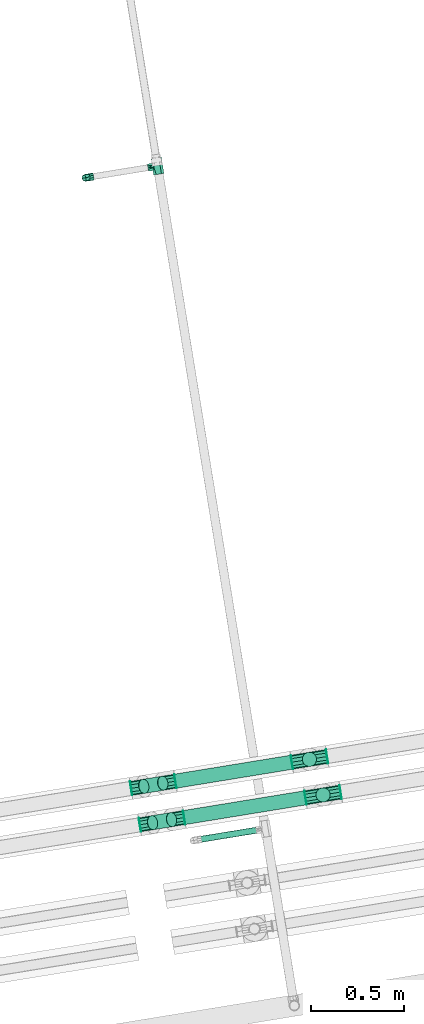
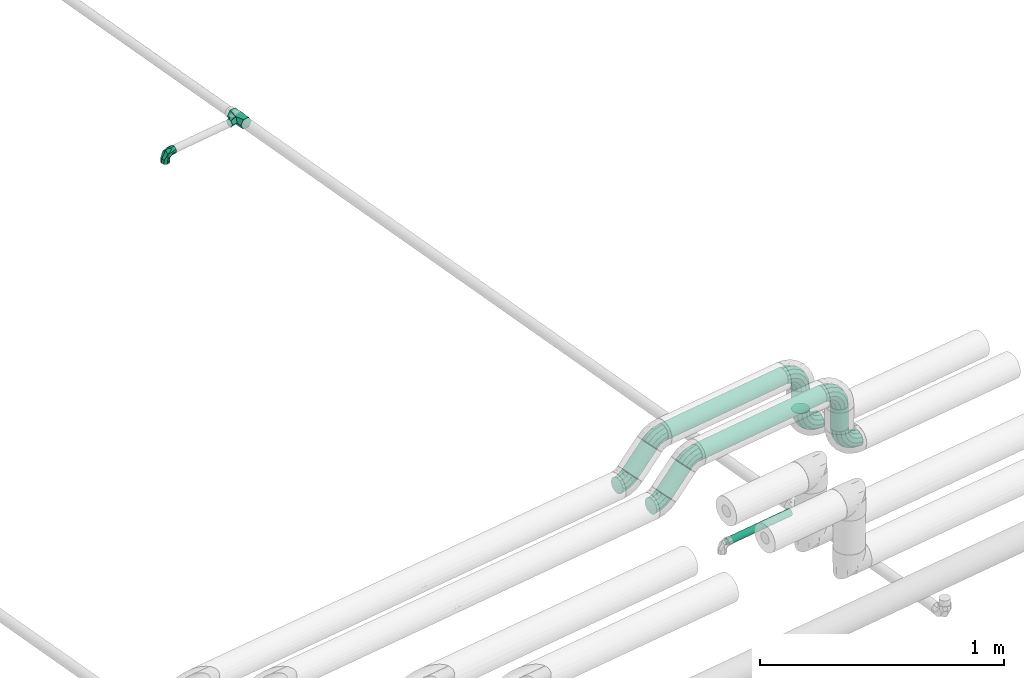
# One storey, part 28 of 56: 26 flow fittings, 7 flow segments.
"""IFC2X3 building model written with IfcOpenShell, lengths in millimetres."""

from ifc_helpers import new_model, entity, si_unit, converted_unit, derived_unit, direction, frame, frame_2d, origin, origin_with_axes, origin_2d_with_axis, place, context, subcontext, project, spatial, circle, extrude, faceted_brep, source, transform, mapped, material, type_object, element, save


model = new_model("IFC2X3")

# Units and contexts
model_context = context("Model", 3, precision=0.01, world=origin(), true_north=direction((6.12323399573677e-17, 1.0)))
plan_context = context("Plan", 3, precision=1e-05, world=origin_with_axes())
body_context = subcontext(model_context, "Body", "Model", "MODEL_VIEW")
ifc_project = project(units=[converted_unit("PLANEANGLEUNIT", "DEGREE", entity("IfcPositiveLengthMeasure", 0.0174532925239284), si_unit("PLANEANGLEUNIT", "RADIAN"), dimensions=[0, 0, 0, 0, 0, 0, 0]), si_unit("AREAUNIT", "SQUARE_METRE"), si_unit("LENGTHUNIT", "METRE", prefix="MILLI"), si_unit("MASSUNIT", "GRAM", prefix="KILO"), si_unit("POWERUNIT", "WATT"), si_unit("PRESSUREUNIT", "PASCAL", prefix="KILO"), si_unit("FORCEUNIT", "NEWTON", prefix="KILO"), si_unit("ELECTRICVOLTAGEUNIT", "VOLT"), si_unit("ELECTRICCURRENTUNIT", "AMPERE"), si_unit("THERMODYNAMICTEMPERATUREUNIT", "DEGREE_CELSIUS"), si_unit("TIMEUNIT", "SECOND"), si_unit("VOLUMEUNIT", "CUBIC_METRE"), derived_unit("LINEARVELOCITYUNIT", [(si_unit("LENGTHUNIT", "METRE"), 1), (si_unit("TIMEUNIT", "SECOND"), -1)]), derived_unit("VOLUMETRICFLOWRATEUNIT", [(si_unit("VOLUMEUNIT", "CUBIC_METRE"), 1), (si_unit("TIMEUNIT", "SECOND"), -1)]), derived_unit("THERMALTRANSMITTANCEUNIT", [(si_unit("POWERUNIT", "WATT"), 1), (si_unit("THERMODYNAMICTEMPERATUREUNIT", "KELVIN"), -1), (si_unit("AREAUNIT", "SQUARE_METRE"), -1)]), derived_unit("SOUNDPRESSUREUNIT", [(si_unit("PRESSUREUNIT", "PASCAL"), 1)])], contexts=[model_context, plan_context])

# Site, building, storey
site_placement = place(None, frame((-3.09682673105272e-06, 1.93776733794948e-05, 0.0), z_axis=(0.0, 0.0, 1.0), x_axis=(-0.160806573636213, 0.986985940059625, 0.0)))
site = spatial("IfcSite", under=ifc_project, at=site_placement, Name="Default", CompositionType="ELEMENT")
building_placement = place(site_placement, frame((0.0, 0.0, 0.0), z_axis=(0.0, 0.0, 1.0), x_axis=(1.0, -2.77555756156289e-17, 0.0)))
building = spatial("IfcBuilding", under=site, at=building_placement, Name="Bygning (endres i Project Information)", CompositionType="ELEMENT")
storey_placement = place(building_placement, frame((0.0, 0.0, 51360.0000000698), z_axis=(0.0, 0.0, 1.0), x_axis=(1.0, -2.77555756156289e-17, 0.0)))
storey = spatial("IfcBuildingStorey", under=building, at=storey_placement, Name="H01-Nivå D+0,36", CompositionType="ELEMENT", Elevation=51360.0000000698)

# Flow fittings
ifc_material_1 = material(Name="3320.001")
pipe_fitting_type_1 = type_object("IfcPipeFittingType", Name="RS_53_PIF_UN_Tee-Reduced-EN10241_MC_gen:RS_53_PIF_UN_Tee-Reduced-EN10241_MC_gen", PredefinedType="NOTDEFINED", material=ifc_material_1)
shared_shape_1 = source(origin(), body_context, "Body", "Brep", [
    faceted_brep([(44.0, -28.0, 0.0), (44.0, -21.0, -12.124355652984), (44.0, -14.0, -24.2487113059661), (44.0, 0.0, -24.2487113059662), (44.0, 14.0, -24.2487113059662), (44.0, 21.0, -12.1243556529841), (44.0, 28.0, 0.0), (44.0, 21.0, 12.1243556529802), (44.0, 14.0, 24.2487113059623), (44.0, 0.0, 24.2487113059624), (44.0, -14.0, 24.2487113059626), (44.0, -21.0, 12.1243556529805), (-44.0, -28.0, 0.0), (-44.0, -21.0, 12.1243556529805), (-44.0, -14.0, 24.2487113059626), (-44.0, 0.0, 24.2487113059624), (-44.0, 14.0, 24.2487113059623), (-44.0, 21.0, 12.1243556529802), (-44.0, 28.0, 0.0), (-44.0, 20.982647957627, -12.1544102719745), (-44.0, 14.0, -24.2487113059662), (-44.0, 0.0, -24.2487113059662), (-44.0, -14.0, -24.2487113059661), (-44.0, -21.0, -12.124355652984), (3.55028427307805, -20.1628871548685, 19.4282778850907), (11.6501421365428, -24.0814435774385, 9.71413894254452), (-19.7499999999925, -28.0, 0.0), (-8.09985786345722, -24.0814435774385, 9.71413894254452), (19.7500000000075, -28.0, 0.0), (-11.6531711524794, -24.0819773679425, -9.71358493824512), (-3.55634230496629, -20.1639547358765, -19.4271698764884), (8.0968288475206, -24.0819773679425, -9.71358493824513), (9.87500000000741, -52.0, -17.1040017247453), (14.8125000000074, -52.0, -8.55200086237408), (19.7500000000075, -52.0, 0.0), (14.8125000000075, -52.0, 8.55200086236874), (9.87500000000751, -52.0, 17.1040017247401), (0.0, -52.0, 17.1040017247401), (-9.87499999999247, -52.0, 17.1040017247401), (-14.8124999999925, -52.0, 8.55200086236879), (-19.7499999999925, -52.0, 0.0), (-14.8124999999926, -52.0, -8.55200086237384), (-9.87499999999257, -52.0, -17.1040017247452), (0.0, -52.0, -17.1040017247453)], [[[0, 1, 2, 3, 4, 5, 6, 7, 8, 9, 10, 11]], [[12, 13, 14, 15, 16, 17, 18, 19, 20, 21, 22, 23]], [[7, 6, 18, 17, 16, 8]], [[8, 16, 15, 9]], [[15, 14, 24]], [[11, 24, 25]], [[24, 9, 15]], [[12, 26, 13]], [[13, 26, 27, 24]], [[0, 11, 25]], [[0, 25, 28]], [[24, 14, 13]], [[24, 11, 10]], [[9, 24, 10]], [[19, 18, 6, 5, 4, 20]], [[23, 29, 12]], [[30, 1, 28, 31]], [[23, 30, 29]], [[12, 29, 26]], [[1, 0, 28]], [[23, 22, 30]], [[21, 20, 4, 3]], [[30, 21, 3]], [[30, 3, 2]], [[30, 2, 1]], [[21, 30, 22]], [[32, 33, 34, 35, 36, 37, 38, 39, 40, 41, 42, 43]], [[26, 41, 40]], [[29, 42, 41]], [[31, 43, 30]], [[32, 31, 33]], [[30, 42, 29]], [[28, 33, 31]], [[31, 32, 43]], [[34, 33, 28]], [[43, 42, 30]], [[26, 29, 41]], [[28, 35, 34]], [[25, 36, 35]], [[27, 37, 24]], [[38, 27, 39]], [[24, 36, 25]], [[26, 39, 27]], [[27, 38, 37]], [[40, 39, 26]], [[37, 36, 24]], [[28, 25, 35]]]),
])
flow_fitting_1_placement = place(storey_placement, frame((1015158.93557438, -395336.905112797, 3200.0), z_axis=(0.0, 0.0, 1.0), x_axis=(-1.0, 2.77555756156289e-17, 0.0)))
element("IfcFlowFitting", 1, at=flow_fitting_1_placement, inside=storey, type_object=pipe_fitting_type_1, material=ifc_material_1, Name="RS_53_PIF_UN_Tee-Reduced-EN10241_MC_gen:RS_53_PIF_UN_Tee-Reduced-EN10241_MC_gen", ObjectType="RS_53_PIF_UN_Tee-Reduced-EN10241_MC_gen:RS_53_PIF_UN_Tee-Reduced-EN10241_MC_gen", context=body_context, shape_type="MappedRepresentation", body=[
    mapped(shared_shape_1, transform((0.0, 0.0, 0.0), scale=1.0)),
])
pipe_fitting_type_2 = type_object("IfcPipeFittingType", Name="RS_53_PIF_UN_Elbow-EN10241_NOR:RS_53_PIF_UN_Elbow-EN10241_NOR", PredefinedType="NOTDEFINED", material=ifc_material_1)
shared_shape_2 = source(origin(), body_context, "Body", "Brep", [
    faceted_brep([(-43.0, 5.11167614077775, 19.0770350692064), (-43.0, 17.1040017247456, 9.87499999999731), (-43.0, 19.7500000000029, 0.0), (-43.0, 17.1040017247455, -9.87500000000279), (-43.0, 5.11167614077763, -19.0770350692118), (-43.0, -5.11167614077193, -19.0770350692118), (-43.0, -17.1040017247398, -9.87500000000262), (-43.0, -19.7499999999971, 0.0), (-43.0, -17.1040017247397, 9.87499999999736), (-43.0, -5.11167614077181, 19.0770350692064), (-21.7499999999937, -19.7499999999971, 0.0), (-21.7499999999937, -15.1293510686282, -12.6950870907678), (-21.7499999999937, -3.42946974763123, -19.4499675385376), (-21.7499999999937, 15.1294711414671, -12.694943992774), (-21.7499999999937, 19.7500000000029, 0.0), (-21.7499999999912, 5.85000069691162, -16.072455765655), (-21.7499999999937, 15.1294711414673, 12.6949439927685), (-21.7499999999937, 3.42965371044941, 19.4499351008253), (-21.7499999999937, -15.1293510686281, 12.6950870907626), (-5.41688095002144, -10.3200693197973, 0.0), (0.655979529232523, -2.00253561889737, 16.4678355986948), (-11.0449015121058, 9.84579831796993, 18.897380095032), (-18.5589216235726, 21.7499999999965, 6.75491881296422), (-15.1293490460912, 21.7499999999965, 12.6950895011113), (-20.3357864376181, 20.3357864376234, 0.0), (-19.7499999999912, 21.7499999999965, 0.0), (14.190054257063, 1.0, 0.0), (12.6950125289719, 21.7499999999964, 15.1294136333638), (6.75482439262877, 21.7499999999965, 18.5589559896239), (17.2232575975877, 12.3200689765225, 0.0), (-6.754824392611, 21.7499999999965, 18.558955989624), (19.7500000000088, 21.7499999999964, 0.0), (18.5589216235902, 21.7499999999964, 6.75491881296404), (0.0, 21.7499999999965, 19.7499999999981), (-18.5589216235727, 21.7499999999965, -6.75491881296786), (-10.1618436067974, 10.1618877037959, -19.0082217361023), (1.2569166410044, -0.890945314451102, -16.7093898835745), (0.0, 21.7499999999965, -19.7500000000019), (-6.75482439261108, 21.7499999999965, -18.5589559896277), (-12.6950125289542, 21.7499999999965, -15.1294136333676), (18.5589216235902, 21.7499999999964, -6.75491881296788), (15.1293490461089, 21.7499999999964, -12.6950895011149), (6.75482439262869, 21.7499999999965, -18.5589559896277), (-9.8749999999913, 43.0, 17.1040017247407), (0.0, 43.0, 19.7499999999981), (9.8750000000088, 43.0, 17.1040017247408), (19.0770350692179, 43.0, 5.11167614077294), (19.0770350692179, 43.0, -5.11167614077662), (9.87500000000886, 43.0, -17.1040017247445), (0.0, 43.0, -19.7500000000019), (-9.87499999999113, 43.0, -17.1040017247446), (-19.0770350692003, 43.0, -5.11167614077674), (-19.0770350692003, 43.0, 5.11167614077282)], [[[0, 1, 2, 3, 4, 5, 6, 7, 8, 9]], [[7, 6, 10]], [[6, 11, 10]], [[11, 6, 5]], [[11, 5, 12]], [[13, 4, 3]], [[14, 3, 2]], [[4, 13, 15, 12]], [[13, 3, 14]], [[4, 12, 5]], [[2, 1, 14]], [[1, 16, 14]], [[16, 1, 0]], [[16, 0, 17]], [[18, 9, 8]], [[10, 8, 7]], [[9, 18, 17]], [[18, 8, 10]], [[9, 17, 0]], [[18, 19, 20]], [[20, 21, 17]], [[22, 16, 23]], [[16, 17, 21]], [[24, 14, 22]], [[22, 25, 24]], [[14, 16, 22]], [[20, 26, 27]], [[27, 28, 20]], [[26, 29, 27]], [[23, 21, 30]], [[31, 32, 29]], [[18, 20, 17]], [[26, 20, 19]], [[21, 23, 16]], [[18, 10, 19]], [[33, 21, 20]], [[33, 30, 21]], [[27, 29, 32]], [[33, 20, 28]], [[14, 24, 34]], [[25, 34, 24]], [[12, 35, 36]], [[14, 34, 13]], [[36, 19, 11]], [[37, 35, 38]], [[38, 35, 39]], [[10, 11, 19]], [[34, 39, 13]], [[37, 36, 35]], [[36, 11, 12]], [[39, 35, 13]], [[40, 31, 29]], [[41, 36, 42]], [[36, 37, 42]], [[41, 40, 29]], [[26, 36, 41]], [[29, 26, 41]], [[19, 36, 26]], [[13, 35, 12, 15]], [[43, 44, 45, 46, 47, 48, 49, 50, 51, 52]], [[49, 37, 38]], [[50, 38, 39]], [[49, 38, 50]], [[51, 50, 39]], [[51, 34, 25]], [[34, 51, 39]], [[52, 25, 22]], [[22, 23, 52]], [[30, 43, 23]], [[52, 23, 43]], [[44, 43, 30]], [[33, 44, 30]], [[25, 52, 51]], [[44, 33, 28]], [[45, 28, 27]], [[44, 28, 45]], [[46, 45, 27]], [[46, 32, 31]], [[32, 46, 27]], [[47, 31, 40]], [[40, 41, 47]], [[42, 48, 41]], [[47, 41, 48]], [[49, 48, 42]], [[37, 49, 42]], [[31, 47, 46]]]),
])
flow_fitting_2_placement = place(storey_placement, frame((1015158.93557438, -394946.491159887, 3200.0), z_axis=(1.0, -2.77555756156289e-17, 0.0), x_axis=(0.0, 0.0, 1.0)))
element("IfcFlowFitting", 2, at=flow_fitting_2_placement, inside=storey, type_object=pipe_fitting_type_2, material=ifc_material_1, Name="RS_53_PIF_UN_Elbow-EN10241_NOR:RS_53_PIF_UN_Elbow-EN10241_NOR", ObjectType="RS_53_PIF_UN_Elbow-EN10241_NOR:RS_53_PIF_UN_Elbow-EN10241_NOR", context=body_context, shape_type="MappedRepresentation", body=[
    mapped(shared_shape_2, transform((0.0, 0.0, 0.0), scale=1.0)),
])
ifc_material_2 = material(Name="3700.001 Retur")
pipe_fitting_type_3 = type_object("IfcPipeFittingType", Name="Bend sveist:EN 10253-1 S235 3D ISO", PredefinedType="NOTDEFINED", material=ifc_material_2)
shared_shape_3 = source(origin(), body_context, "Body", "Brep", [
    faceted_brep([(-4.83671721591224, -33.5334682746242, 0.0), (-6.15610770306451, -28.6094359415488, 19.024999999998), (-39.143181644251, -32.9522666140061, 19.024999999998), (-39.143181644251, -38.0500000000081, 0.0), (-9.76074954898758, -15.1567294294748, 32.9522666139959), (-39.143181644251, -19.0250000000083, 32.9522666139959), (-14.6847818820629, 3.22000941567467, 38.0499999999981), (-39.143181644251, 0.0, 38.0499999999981), (-19.6088142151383, 21.5967482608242, 32.9522666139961), (-39.1431816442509, 19.0249999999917, 32.9522666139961), (-23.2134560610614, 35.0494547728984, 19.0249999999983), (-39.1431816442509, 32.9522666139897, 19.0249999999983), (-24.5328465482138, 39.9734871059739, 0.0), (-39.1431816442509, 38.0499999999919, 0.0), (-23.2134560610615, 35.0494547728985, -19.0250000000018), (-39.1431816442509, 32.9522666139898, -19.0250000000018), (-19.6088142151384, 21.5967482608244, -32.9522666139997), (-39.1431816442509, 19.0249999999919, -32.9522666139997), (-14.684781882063, 3.22000941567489, -38.0500000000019), (-39.143181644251, 0.0, -38.0500000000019), (-9.76074954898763, -15.1567294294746, -32.9522666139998), (-39.143181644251, -19.0250000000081, -32.9522666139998), (-6.15610770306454, -28.6094359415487, -19.025000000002), (-39.143181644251, -32.952266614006, -19.025000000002), (27.1318183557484, -20.2916672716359, 0.0), (24.5829516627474, -15.8769006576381, 19.024999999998), (17.6193183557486, -3.81553396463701, 32.9522666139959), (8.10681835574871, 12.660599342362, 38.0499999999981), (-1.4056816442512, 29.136732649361, 32.9522666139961), (-8.36931495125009, 41.1980993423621, 19.0249999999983), (-10.9181816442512, 45.6128659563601, 0.0), (-8.36931495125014, 41.1980993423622, -19.0250000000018), (-1.40568164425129, 29.1367326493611, -32.9522666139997), (8.1068183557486, 12.6605993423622, -38.0500000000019), (17.6193183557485, -3.81553396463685, -32.9522666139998), (24.5829516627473, -15.876900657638, -19.025000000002), (54.5838222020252, 0.772996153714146, 0.0), (50.9791803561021, 4.37763799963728, 19.024999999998), (41.1311156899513, 14.2257026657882, 32.9522666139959), (27.6784091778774, 27.6784091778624, 38.0499999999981), (14.2257026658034, 41.1311156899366, 32.9522666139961), (4.37763799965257, 50.9791803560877, 19.0249999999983), (0.772996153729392, 54.5838222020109, 0.0), (4.3776379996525, 50.9791803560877, -19.0250000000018), (14.2257026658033, 41.1311156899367, -32.9522666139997), (27.6784091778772, 27.6784091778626, -38.0500000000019), (41.1311156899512, 14.2257026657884, -32.9522666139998), (50.979180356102, 4.37763799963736, -19.025000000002)], [[[0, 1, 2, 3]], [[1, 4, 5, 2]], [[4, 6, 7, 5]], [[6, 8, 9, 7]], [[8, 10, 11, 9]], [[10, 12, 13, 11]], [[12, 14, 15, 13]], [[14, 16, 17, 15]], [[16, 18, 19, 17]], [[18, 20, 21, 19]], [[20, 22, 23, 21]], [[22, 0, 3, 23]], [[24, 25, 1, 0]], [[25, 26, 4, 1]], [[26, 27, 6, 4]], [[27, 28, 8, 6]], [[28, 29, 10, 8]], [[29, 30, 12, 10]], [[30, 31, 14, 12]], [[31, 32, 16, 14]], [[32, 33, 18, 16]], [[33, 34, 20, 18]], [[34, 35, 22, 20]], [[35, 24, 0, 22]], [[36, 37, 25, 24]], [[37, 38, 26, 25]], [[38, 39, 27, 26]], [[39, 40, 28, 27]], [[40, 41, 29, 28]], [[41, 42, 30, 29]], [[42, 43, 31, 30]], [[43, 44, 32, 31]], [[44, 45, 33, 32]], [[45, 46, 34, 33]], [[46, 47, 35, 34]], [[47, 36, 24, 35]], [[3, 2, 5, 7, 9, 11, 13, 15, 17, 19, 21, 23]], [[47, 46, 45, 44, 43, 42, 41, 40, 39, 38, 37, 36]]]),
])
for number, where, z_axis, x_axis in (
    (3, (1011688.36764294, -394875.815734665, 3600.00073692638), (-1.0, 2.77555756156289e-17, 0.0), (2.77555756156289e-17, 1.0, 0.0)),
    (4, (1011688.36764294, -394715.815734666, 3440.00073692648), (-1.0, 2.77555756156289e-17, 0.0), (-2.77555756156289e-17, -1.0, 0.0)),
    (5, (1011888.36764294, -394700.815734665, 3440.00073692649), (-1.0, 2.77555756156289e-17, 0.0), (-2.77555756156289e-17, -1.0, 0.0)),
    (6, (1011888.36764294, -394860.814997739, 3600.0), (1.0, 1.96261557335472e-17, -2.51141264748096e-30), (1.38777878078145e-17, -0.707106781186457, 0.707106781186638)),
):
    element("IfcFlowFitting", number, at=place(storey_placement, frame(where, z_axis=z_axis, x_axis=x_axis)), inside=storey, type_object=pipe_fitting_type_3, material=ifc_material_2, Name="Bend sveist:EN 10253-1 S235 3D ISO", ObjectType="Bend sveist:EN 10253-1 S235 3D ISO", context=body_context, shape_type="MappedRepresentation", body=[
        mapped(shared_shape_3, transform((0.0, 0.0, 0.0), scale=1.0)),
    ])
ifc_material_3 = material(Name="<Unnamed>")
pipe_fitting_type_4 = type_object("IfcPipeFittingType", Name="Sveis:Sveis", PredefinedType="NOTDEFINED", material=ifc_material_3)
shared_shape_4 = source(origin(), body_context, "Body", "SweptSolid", [
    extrude(circle(Radius=38.05, at=frame_2d((1.62943588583e-15, -6.14714710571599e-14), x_axis=(1.0, 0.0))), origin(), (0.0, 0.0, 1.0), 2.0),
])
for number, where, z_axis, x_axis in (
    (7, (1011688.36764294, -394914.95891631, 3600.0007369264), (-2.77555756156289e-17, -1.0, 0.0), (0.0, 0.0, 1.0)),
    (8, (1011688.36764294, -394848.137325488, 3572.32232774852), (1.96261557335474e-17, 0.707106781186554, -0.707106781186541), (-1.0, 2.77555756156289e-17, 0.0)),
    (9, (1011688.36764294, -394676.672553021, 3440.00073692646), (2.77555756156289e-17, 1.0, 0.0), (0.0, 0.0, -1.0)),
    (10, (1011688.36764293, -394743.494143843, 3467.67914610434), (-1.96261557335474e-17, -0.707106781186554, 0.707106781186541), (-1.0, 2.77555756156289e-17, 0.0)),
    (11, (1011688.36764294, -395576.315734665, 3600.00073692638), (2.77555756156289e-17, 1.0, 0.0), (0.0, 0.0, 1.0)),
    (12, (1011688.36764294, -395670.815734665, 3505.50073692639), (0.0, 0.0, -1.0), (1.0, -2.77555756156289e-17, 0.0)),
    (13, (1011688.36764294, -395670.815734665, 3394.50000000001), (0.0, 0.0, 1.0), (2.77555756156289e-17, 1.0, 0.0)),
    (14, (1011688.36764294, -395765.315734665, 3300.0), (-2.77555756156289e-17, -1.0, 0.0), (-1.0, 2.77555756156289e-17, 0.0)),
    (15, (1011888.36764294, -394661.672553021, 3440.00073692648), (2.77555756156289e-17, 1.0, 0.0), (0.0, 0.0, -1.0)),
    (16, (1011888.36764293, -394728.494143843, 3467.67914610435), (-1.96261557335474e-17, -0.707106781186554, 0.707106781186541), (-1.0, 2.77555756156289e-17, 0.0)),
    (17, (1011888.36764294, -394833.136588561, 3572.32159082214), (2.25003396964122e-17, 0.707106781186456, -0.707106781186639), (2.77555756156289e-17, 0.707106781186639, 0.707106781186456)),
    (18, (1011888.36764294, -394899.958179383, 3600.0), (-2.77555756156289e-17, -1.0, 0.0), (1.0, -2.77555756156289e-17, 0.0)),
    (19, (1011888.36764294, -395629.315734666, 3505.50000000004), (0.0, 0.0, -1.0), (-2.77555756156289e-17, -1.0, 0.0)),
    (20, (1011888.36764294, -395534.815734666, 3600.0), (2.77555756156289e-17, 1.0, 0.0), (-1.0, 2.77555756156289e-17, 0.0)),
    (21, (1011888.36764294, -395629.315734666, 3394.50000000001), (0.0, 0.0, 1.0), (2.77555756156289e-17, 1.0, 0.0)),
    (22, (1011888.36764294, -395723.815734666, 3300.0), (-2.77555756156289e-17, -1.0, 0.0), (-1.0, 2.77555756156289e-17, 0.0)),
):
    element("IfcFlowFitting", number, at=place(storey_placement, frame(where, z_axis=z_axis, x_axis=x_axis)), inside=storey, type_object=pipe_fitting_type_4, material=ifc_material_3, Name="Sveis:Sveis", ObjectType="Sveis:Sveis", context=body_context, shape_type="MappedRepresentation", body=[
        mapped(shared_shape_4, transform((0.0, 0.0, 0.0), scale=1.0)),
    ])
pipe_fitting_type_5 = type_object("IfcPipeFittingType", Name="Bend sveist:EN 10253-1 S235 3D ISO", PredefinedType="NOTDEFINED", material=ifc_material_2)
shared_shape_5 = source(origin(), body_context, "Body", "Brep", [
    faceted_brep([(-53.5397973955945, -31.5625412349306, 0.0), (-55.1150836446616, -26.714308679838, 19.024999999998), (-94.4999999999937, -32.9522666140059, 19.024999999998), (-94.4999999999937, -38.050000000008, 0.0), (-59.4188457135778, -13.4686910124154, 32.9522666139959), (-94.4999999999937, -19.0250000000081, 32.9522666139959), (-65.2978940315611, 4.62515921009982, 38.0499999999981), (-94.4999999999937, 0.0, 38.0499999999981), (-71.1769423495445, 22.7190094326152, 32.9522666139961), (-94.4999999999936, 19.0249999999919, 32.9522666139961), (-75.4807044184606, 35.9646271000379, 19.0249999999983), (-94.4999999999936, 32.9522666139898, 19.0249999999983), (-77.0559906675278, 40.8128596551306, 0.0), (-94.4999999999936, 38.049999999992, 0.0), (-75.4807044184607, 35.964627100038, -19.0250000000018), (-94.4999999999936, 32.9522666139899, -19.0250000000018), (-71.1769423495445, 22.7190094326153, -32.9522666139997), (-94.4999999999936, 19.0249999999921, -32.9522666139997), (-65.2978940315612, 4.62515921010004, -38.0500000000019), (-94.4999999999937, 0.0, -38.0500000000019), (-59.4188457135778, -13.4686910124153, -32.9522666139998), (-94.4999999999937, -19.0250000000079, -32.9522666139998), (-55.1150836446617, -26.7143086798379, -19.025000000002), (-94.4999999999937, -32.9522666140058, -19.025000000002), (-16.5890648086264, -12.7352026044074, 0.0), (-19.5854373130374, -8.6110496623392, 19.024999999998), (-27.7716792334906, 2.65634571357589, 32.9522666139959), (-38.9542936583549, 18.0478940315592, 38.0499999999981), (-50.1369080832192, 33.4394423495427, 32.9522666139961), (-58.3231500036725, 44.7068377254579, 19.0249999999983), (-61.3195225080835, 48.8309906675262, 0.0), (-58.3231500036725, 44.7068377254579, -19.0250000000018), (-50.1369080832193, 33.4394423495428, -32.9522666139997), (-38.954293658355, 18.0478940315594, -38.0500000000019), (-27.7716792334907, 2.65634571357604, -32.9522666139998), (-19.5854373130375, -8.61104966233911, -19.025000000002), (12.7352026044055, 16.5890648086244, 0.0), (8.61104966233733, 19.5854373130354, 19.024999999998), (-2.65634571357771, 27.7716792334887, 32.9522666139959), (-18.047894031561, 38.954293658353, 38.0499999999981), (-33.4394423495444, 50.1369080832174, 32.9522666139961), (-44.7068377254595, 58.3231500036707, 19.0249999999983), (-48.8309906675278, 61.3195225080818, 0.0), (-44.7068377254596, 58.3231500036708, -19.0250000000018), (-33.4394423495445, 50.1369080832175, -32.9522666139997), (-18.0478940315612, 38.9542936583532, -38.0500000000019), (-2.65634571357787, 27.7716792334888, -32.9522666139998), (8.61104966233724, 19.5854373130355, -19.025000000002), (31.5625412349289, 53.5397973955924, 0.0), (26.7143086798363, 55.1150836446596, 19.024999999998), (13.4686910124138, 59.4188457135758, 32.9522666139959), (-4.62515921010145, 65.2978940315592, 38.0499999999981), (-22.7190094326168, 71.1769423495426, 32.9522666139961), (-35.9646271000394, 75.4807044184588, 19.0249999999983), (-40.8128596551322, 77.0559906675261, 0.0), (-35.9646271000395, 75.4807044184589, -19.0250000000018), (-22.7190094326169, 71.1769423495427, -32.9522666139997), (-4.62515921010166, 65.2978940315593, -38.0500000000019), (13.4686910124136, 59.4188457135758, -32.9522666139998), (26.7143086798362, 55.1150836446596, -19.025000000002), (38.0500000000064, 94.4999999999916, 0.0), (32.9522666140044, 94.4999999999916, 19.024999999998), (19.0250000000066, 94.4999999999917, 32.9522666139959), (0.0, 94.4999999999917, 38.0499999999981), (-19.0249999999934, 94.4999999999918, 32.9522666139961), (-32.9522666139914, 94.4999999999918, 19.0249999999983), (-38.0499999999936, 94.4999999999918, 0.0), (-32.9522666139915, 94.4999999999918, -19.0250000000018), (-19.0249999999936, 94.4999999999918, -32.9522666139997), (0.0, 94.4999999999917, -38.0500000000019), (19.0250000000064, 94.4999999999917, -32.9522666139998), (32.9522666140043, 94.4999999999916, -19.025000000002)], [[[0, 1, 2, 3]], [[1, 4, 5, 2]], [[4, 6, 7, 5]], [[6, 8, 9, 7]], [[8, 10, 11, 9]], [[10, 12, 13, 11]], [[12, 14, 15, 13]], [[14, 16, 17, 15]], [[16, 18, 19, 17]], [[18, 20, 21, 19]], [[20, 22, 23, 21]], [[22, 0, 3, 23]], [[24, 25, 1, 0]], [[25, 26, 4, 1]], [[26, 27, 6, 4]], [[27, 28, 8, 6]], [[28, 29, 10, 8]], [[29, 30, 12, 10]], [[30, 31, 14, 12]], [[31, 32, 16, 14]], [[32, 33, 18, 16]], [[33, 34, 20, 18]], [[34, 35, 22, 20]], [[35, 24, 0, 22]], [[36, 37, 25, 24]], [[37, 38, 26, 25]], [[38, 39, 27, 26]], [[39, 40, 28, 27]], [[40, 41, 29, 28]], [[41, 42, 30, 29]], [[42, 43, 31, 30]], [[43, 44, 32, 31]], [[44, 45, 33, 32]], [[45, 46, 34, 33]], [[46, 47, 35, 34]], [[47, 36, 24, 35]], [[48, 49, 37, 36]], [[49, 50, 38, 37]], [[50, 51, 39, 38]], [[51, 52, 40, 39]], [[52, 53, 41, 40]], [[53, 54, 42, 41]], [[54, 55, 43, 42]], [[55, 56, 44, 43]], [[56, 57, 45, 44]], [[57, 58, 46, 45]], [[58, 59, 47, 46]], [[59, 48, 36, 47]], [[60, 61, 49, 48]], [[61, 62, 50, 49]], [[62, 63, 51, 50]], [[63, 64, 52, 51]], [[64, 65, 53, 52]], [[65, 66, 54, 53]], [[66, 67, 55, 54]], [[67, 68, 56, 55]], [[68, 69, 57, 56]], [[69, 70, 58, 57]], [[70, 71, 59, 58]], [[71, 60, 48, 59]], [[3, 2, 5, 7, 9, 11, 13, 15, 17, 19, 21, 23]], [[71, 70, 69, 68, 67, 66, 65, 64, 63, 62, 61, 60]]]),
])
for number, where, z_axis, x_axis in (
    (23, (1011688.36764294, -395670.815734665, 3600.00073692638), (1.0, -2.77555756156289e-17, 0.0), (-2.77555756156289e-17, -1.0, 0.0)),
    (24, (1011688.36764294, -395670.815734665, 3300.0), (-1.0, 2.77555756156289e-17, 0.0), (0.0, 0.0, -1.0)),
    (25, (1011888.36764294, -395629.315734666, 3600.0), (-1.0, 2.77555756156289e-17, 0.0), (0.0, 0.0, 1.0)),
    (26, (1011888.36764294, -395629.315734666, 3300.0), (-1.0, 2.77555756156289e-17, 0.0), (0.0, 0.0, -1.0)),
):
    element("IfcFlowFitting", number, at=place(storey_placement, frame(where, z_axis=z_axis, x_axis=x_axis)), inside=storey, type_object=pipe_fitting_type_5, material=ifc_material_2, Name="Bend sveist:EN 10253-1 S235 3D ISO", ObjectType="Bend sveist:EN 10253-1 S235 3D ISO", context=body_context, shape_type="MappedRepresentation", body=[
        mapped(shared_shape_5, transform((0.0, 0.0, 0.0), scale=1.0)),
    ])

# Flow segments
pipe_segment_type = type_object("IfcPipeSegmentType", Name="Pipe Types:Stålrør sveist og gjenget", PredefinedType="NOTDEFINED", material=ifc_material_1)
flow_segment_1_placement = place(storey_placement, frame((0.0, 0.0, 0.0), z_axis=(0.0, 0.0, 1.0), x_axis=(1.0, -2.77555756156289e-17, 0.0)))
element("IfcFlowSegment", 27, at=flow_segment_1_placement, inside=storey, type_object=pipe_segment_type, Name="Pipe Types:Stålrør sveist og gjenget", ObjectType="Pipe Types:Stålrør sveist og gjenget", context=body_context, shape_type="SweptSolid", body=[
    extrude(circle(Radius=16.8500004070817, at=origin_2d_with_axis()), frame((1011558.93557438, -395304.005112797, 3200.0), z_axis=(0.0, 1.0, 0.0), x_axis=(1.0, 0.0, 0.0)), (0.0, 0.0, 1.0), 333.613952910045),
])
flow_segment_2_placement = place(storey_placement, frame((0.0, 0.0, 0.0), z_axis=(0.0, 0.0, 1.0), x_axis=(1.0, -2.77555756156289e-17, 0.0)))
element("IfcFlowSegment", 28, at=flow_segment_2_placement, inside=storey, type_object=pipe_segment_type, Name="Pipe Types:Stålrør sveist og gjenget", ObjectType="Pipe Types:Stålrør sveist og gjenget", context=body_context, shape_type="SweptSolid", body=[
    extrude(circle(Radius=38.0499992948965, at=origin_2d_with_axis()), frame((1011688.36764294, -395574.315734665, 3600.0007369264), z_axis=(0.0, 1.0, 0.0), x_axis=(1.0, 0.0, 0.0)), (0.0, 0.0, 1.0), 657.356818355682),
])
flow_segment_3_placement = place(storey_placement, frame((0.0, 0.0, 0.0), z_axis=(0.0, 0.0, 1.0), x_axis=(1.0, -2.77555756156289e-17, 0.0)))
element("IfcFlowSegment", 29, at=flow_segment_3_placement, inside=storey, type_object=pipe_segment_type, Name="Pipe Types:Stålrør sveist og gjenget", ObjectType="Pipe Types:Stålrør sveist og gjenget", context=body_context, shape_type="SweptSolid", body=[
    extrude(circle(Radius=38.0499992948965, at=origin_2d_with_axis()), frame((1011688.36764294, -394846.723111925, 3570.90811418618), z_axis=(0.0, 0.707106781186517, -0.707106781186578), x_axis=(1.0, 0.0, 0.0)), (0.0, 0.0, 1.0), 143.987806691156),
])
flow_segment_4_placement = place(storey_placement, frame((0.0, 0.0, 0.0), z_axis=(0.0, 0.0, 1.0), x_axis=(1.0, -2.77555756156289e-17, 0.0)))
element("IfcFlowSegment", 30, at=flow_segment_4_placement, inside=storey, type_object=pipe_segment_type, Name="Pipe Types:Stålrør sveist og gjenget", ObjectType="Pipe Types:Stålrør sveist og gjenget", context=body_context, shape_type="SweptSolid", body=[
    extrude(circle(Radius=38.0499992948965, at=frame_2d((0.0, 6.93034962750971e-11), x_axis=(1.0, 0.0))), frame((1011688.36764294, -395670.815734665, 3396.50000000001)), (0.0, 0.0, 1.0), 107.000736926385),
])
flow_segment_5_placement = place(storey_placement, frame((0.0, 0.0, 0.0), z_axis=(0.0, 0.0, 1.0), x_axis=(1.0, -2.77555756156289e-17, 0.0)))
element("IfcFlowSegment", 31, at=flow_segment_5_placement, inside=storey, type_object=pipe_segment_type, Name="Pipe Types:Stålrør sveist og gjenget", ObjectType="Pipe Types:Stålrør sveist og gjenget", context=body_context, shape_type="SweptSolid", body=[
    extrude(circle(Radius=38.0499992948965, at=origin_2d_with_axis()), frame((1011888.36764294, -395532.815734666, 3600.0), z_axis=(0.0, 1.0, 0.0), x_axis=(-1.0, 0.0, 0.0)), (0.0, 0.0, 1.0), 630.857555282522),
])
flow_segment_6_placement = place(storey_placement, frame((0.0, 0.0, 0.0), z_axis=(0.0, 0.0, 1.0), x_axis=(1.0, -2.77555756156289e-17, 0.0)))
element("IfcFlowSegment", 32, at=flow_segment_6_placement, inside=storey, type_object=pipe_segment_type, Name="Pipe Types:Stålrør sveist og gjenget", ObjectType="Pipe Types:Stålrør sveist og gjenget", context=body_context, shape_type="SweptSolid", body=[
    extrude(circle(Radius=38.0499992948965, at=origin_2d_with_axis()), frame((1011888.36764294, -394831.722374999, 3570.90737725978), z_axis=(0.0, 0.707106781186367, -0.707106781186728), x_axis=(1.0, 0.0, 0.0)), (0.0, 0.0, 1.0), 143.986764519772),
])
flow_segment_7_placement = place(storey_placement, frame((0.0, 0.0, 0.0), z_axis=(0.0, 0.0, 1.0), x_axis=(1.0, -2.77555756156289e-17, 0.0)))
element("IfcFlowSegment", 33, at=flow_segment_7_placement, inside=storey, type_object=pipe_segment_type, Name="Pipe Types:Stålrør sveist og gjenget", ObjectType="Pipe Types:Stålrør sveist og gjenget", context=body_context, shape_type="SweptSolid", body=[
    extrude(circle(Radius=38.0499992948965, at=frame_2d((0.0, 6.93034962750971e-11), x_axis=(1.0, 0.0))), frame((1011888.36764294, -395629.315734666, 3396.5), z_axis=(0.0, 0.0, 1.0), x_axis=(-1.0, 0.0, 0.0)), (0.0, 0.0, 1.0), 107.000000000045),
])

save(model, "model.ifc")
